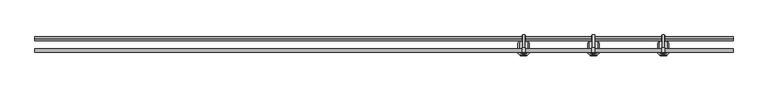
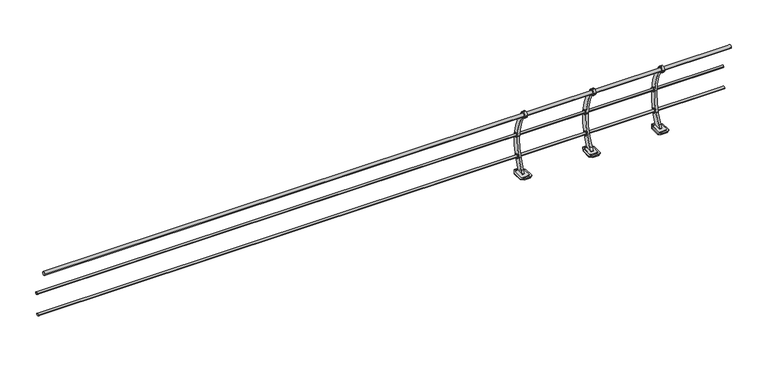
"""IFC4 building model written with IfcOpenShell, lengths in millimetres: railing geometry, Valla Luna-VVL02-1000mm."""

from ifc_helpers import new_model, si_unit, point, frame, frame_2d, origin, place, context, project, spatial, polyline, circle_curve, ellipse_curve, trimmed, segment, composite_curve, outline, extrude, source, transform, mapped, element, save
from ifc_brep_helpers import plane_surface, cylinder_surface, advanced_brep


def railing_a3eb56ae(model_context):
    return source(origin(), model_context, "Body", "SolidModel", [
        extrude(outline(composite_curve([segment(trimmed(circle_curve(frame_2d((-32.5663737, 952.0)), 25.5), [point((-7.0663737, 952.0))], [point((-58.0663737, 952.0))], False, "CARTESIAN"), True, "CONTINUOUS"), segment(trimmed(circle_curve(frame_2d((-32.5663737, 952.0)), 25.5), [point((-58.0663737, 952.0))], [point((-7.0663737, 952.0))], False, "CARTESIAN"), True, "CONTINUOUS")], self_intersect=False)), frame((-10020.1742824, 0.0, 0.0), z_axis=(1.0, 0.0, 0.0), x_axis=(0.0, 1.0, 0.0)), (0.0, 0.0, 1.0), 10000.0),
        extrude(outline(composite_curve([segment(trimmed(circle_curve(frame_2d((151.4336263, 535.5)), 17.0), [point((168.4336263, 535.5))], [point((134.4336263, 535.5))], False, "CARTESIAN"), True, "CONTINUOUS"), segment(trimmed(circle_curve(frame_2d((151.4336263, 535.5)), 17.0), [point((134.4336263, 535.5))], [point((168.4336263, 535.5))], False, "CARTESIAN"), True, "CONTINUOUS")], self_intersect=False)), frame((-10020.1742824, 0.0, 0.0), z_axis=(1.0, 0.0, 0.0), x_axis=(0.0, 1.0, 0.0)), (0.0, 0.0, 1.0), 10000.0),
        extrude(outline(composite_curve([segment(trimmed(circle_curve(frame_2d((124.4336263, 223.0)), 17.0), [point((141.4336263, 223.0))], [point((107.4336263, 223.0))], False, "CARTESIAN"), True, "CONTINUOUS"), segment(trimmed(circle_curve(frame_2d((124.4336263, 223.0)), 17.0), [point((107.4336263, 223.0))], [point((141.4336263, 223.0))], False, "CARTESIAN"), True, "CONTINUOUS")], self_intersect=False)), frame((-10020.1742824, 0.0, 0.0), z_axis=(1.0, 0.0, 0.0), x_axis=(0.0, 1.0, 0.0)), (0.0, 0.0, 1.0), 10000.0),
        advanced_brep(
        [(-962.1742824, -59.8778291, 14.203599), (-962.1742824, 76.8213068, 14.203599), (-962.1742824, 76.8213068, 20.5949777), (-962.1742824, -59.8778291, 20.5949777), (-1078.1742824, -59.8778291, 20.5949777), (-1078.1742824, 76.8213068, 20.5949777), (-1078.1742824, 76.8213068, 14.203599), (-1078.1742824, -59.8778291, 14.203599), (-980.3520143, -75.1307572, 16.3372695), (-1059.9965506, -75.1307572, 16.3372695), (-1059.9965506, -75.1307572, 14.203599), (-980.3520143, -75.1307572, 14.203599), (-1058.4734613, 112.362529, 14.203599), (-981.8751036, 112.362529, 14.203599), (-1058.4734613, 112.362529, 16.3372695), (-981.8751036, 112.362529, 16.3372695), (-1060.8335475, 108.1048208, 20.5949777), (-979.5150174, 108.1048208, 20.5949777), (-1065.0706896, -70.873049, 20.5949777), (-975.2778752, -70.873049, 20.5949777)],
        [
            (0, 1),
            (1, 2),
            (2, 3),
            (3, 0),
            (4, 5),
            (5, 6),
            (6, 7),
            (7, 4),
            (8, 9),
            (9, 10),
            (10, 11),
            (11, 8),
            (0, 11),
            (10, 7),
            (6, 12),
            (12, 13),
            (13, 1),
            (12, 14),
            (14, 15),
            (15, 13),
            (14, 16, ellipse_curve(frame((-1060.8335475, 108.1048208, 16.3372695), z_axis=(0.874619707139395, -0.4848096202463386, 0.0), x_axis=(0.4848096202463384, 0.8746197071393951, 0.0)), 4.868068, 4.2577082)),
            (16, 17),
            (17, 15, ellipse_curve(frame((-979.5150174, 108.1048208, 16.3372695), z_axis=(-0.8746197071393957, -0.4848096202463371, 0.0), x_axis=(0.4848096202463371, -0.8746197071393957, 0.0)), 4.868068, 4.2577082)),
            (2, 17),
            (16, 5),
            (4, 18),
            (18, 19),
            (19, 3),
            (8, 19, ellipse_curve(frame((-975.2778752, -70.873049, 16.3372695), z_axis=(-0.6427876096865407, 0.766044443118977, 0.0), x_axis=(0.7660444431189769, 0.6427876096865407, 0.0)), 6.6238181, 4.2577082)),
            (18, 9, ellipse_curve(frame((-1065.0706896, -70.873049, 16.3372695), z_axis=(0.6427876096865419, 0.7660444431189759, 0.0), x_axis=(0.7660444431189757, -0.6427876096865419, 0.0)), 6.6238181, 4.2577082)),
        ],
        [
            plane_surface(frame((-962.1742824, -75.1307572, 14.203599), z_axis=(1.0, 0.0, 0.0), x_axis=(0.0, 0.0, -1.0))),
            plane_surface(frame((-1078.1742824, -75.1307572, 14.203599), z_axis=(-1.0, 0.0, 0.0), x_axis=(0.0, 0.0, 1.0))),
            plane_surface(frame((-962.1742824, -75.1307572, 16.3372695), z_axis=(0.0, -1.0, 0.0), x_axis=(-1.0, 0.0, 0.0))),
            plane_surface(frame((-962.1742824, -75.1307572, 14.203599), z_axis=(0.0, 0.0, -1.0), x_axis=(-1.0, 0.0, 0.0))),
            plane_surface(frame((-962.1742824, 112.362529, 14.203599), z_axis=(0.0, 1.0, 0.0), x_axis=(-1.0, 0.0, 0.0))),
            cylinder_surface(frame((-1078.1742824, 108.1048208, 16.3372695), z_axis=(1.0, 0.0, 0.0), x_axis=(0.0, 1.0, 0.0)), 4.2577082),
            plane_surface(frame((-962.1742824, 108.1048208, 20.5949777), z_axis=(0.0, 0.0, 1.0), x_axis=(-1.0, 0.0, 0.0))),
            cylinder_surface(frame((-1078.1742824, -70.873049, 16.3372695), z_axis=(1.0, 0.0, 0.0), x_axis=(0.0, 1.0, 0.0)), 4.2577082),
            plane_surface(frame((-1078.1742824, 76.8213068, 26.9863564), z_axis=(-0.874619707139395, 0.4848096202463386, 0.0), x_axis=(0.0, 0.0, -1.0))),
            plane_surface(frame((-981.8751036, 112.362529, 26.9863564), z_axis=(0.8746197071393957, 0.4848096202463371, 0.0), x_axis=(0.0, 0.0, -1.0))),
            plane_surface(frame((-962.1742824, -59.8778291, 26.9863564), z_axis=(0.6427876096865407, -0.766044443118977, 0.0), x_axis=(0.0, 0.0, -1.0))),
            plane_surface(frame((-1059.9965506, -75.1307572, 26.9863564), z_axis=(-0.6427876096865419, -0.7660444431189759, 0.0), x_axis=(0.0, 0.0, -1.0))),
        ],
        [
            (0, [[1, 2, 3, 4]]),
            (1, [[5, 6, 7, 8]]),
            (2, [[9, 10, 11, 12]]),
            (3, [[-1, 13, -11, 14, -7, 15, 16, 17]]),
            (4, [[-16, 18, 19, 20]]),
            (5, [[-19, 21, 22, 23]]),
            (6, [[-3, 24, -22, 25, -5, 26, 27, 28]]),
            (7, [[-9, 29, -27, 30]]),
            (8, [[-6, -25, -21, -18, -15]]),
            (9, [[-2, -17, -20, -23, -24]]),
            (10, [[-4, -28, -29, -12, -13]]),
            (11, [[-8, -14, -10, -30, -26]]),
        ],
    ),
        advanced_brep(
        [(-938.1742824, 73.6162264, 14.203599), (-938.1742824, -73.8212018, 14.203599), (-938.1742824, -73.8212018, 0.0), (-938.1742824, 73.6162264, 0.0), (-1102.1742824, 73.6162264, 0.0), (-1102.1742824, -73.8212018, 0.0), (-1102.1742824, -73.8212018, 14.203599), (-1102.1742824, 73.6162264, 14.203599), (-976.975916, 143.6162264, 0.0), (-1063.3726488, 143.6162264, 0.0), (-1063.3726488, 143.6162264, 9.9410744), (-976.975916, 143.6162264, 9.9410744), (-1065.7354048, 139.3537018, 14.203599), (-974.6131601, 139.3537018, 14.203599), (-1068.4525278, -102.1171136, 14.203599), (-971.896037, -102.1171136, 14.203599), (-1063.3726488, -106.3796382, 9.9410744), (-976.975916, -106.3796382, 9.9410744), (-1063.3726488, -106.3796382, 0.0), (-976.975916, -106.3796382, 0.0)],
        [
            (0, 1),
            (1, 2),
            (2, 3),
            (3, 0),
            (4, 5),
            (5, 6),
            (6, 7),
            (7, 4),
            (8, 9),
            (9, 10),
            (10, 11),
            (11, 8),
            (10, 12, ellipse_curve(frame((-1065.7354048, 139.3537018, 9.9410744), z_axis=(0.874619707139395, -0.4848096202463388, 0.0), x_axis=(0.4848096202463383, 0.8746197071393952, 0.0)), 4.8735749, 4.2625246)),
            (12, 13),
            (13, 11, ellipse_curve(frame((-974.6131601, 139.3537018, 9.9410744), z_axis=(-0.8746197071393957, -0.4848096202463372, 0.0), x_axis=(0.4848096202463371, -0.8746197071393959, 0.0)), 4.8735749, 4.2625246)),
            (0, 13),
            (12, 7),
            (6, 14),
            (14, 15),
            (15, 1),
            (14, 16, ellipse_curve(frame((-1068.4525278, -102.1171136, 9.9410744), z_axis=(0.6427876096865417, 0.766044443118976, 0.0), x_axis=(0.766044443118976, -0.6427876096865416, 0.0)), 6.6313111, 4.2625246)),
            (16, 17),
            (17, 15, ellipse_curve(frame((-971.896037, -102.1171136, 9.9410744), z_axis=(-0.6427876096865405, 0.7660444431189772, 0.0), x_axis=(0.766044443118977, 0.6427876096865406, 0.0)), 6.6313111, 4.2625246)),
            (16, 18),
            (18, 19),
            (19, 17),
            (2, 19),
            (18, 5),
            (4, 9),
            (8, 3),
        ],
        [
            plane_surface(frame((-938.1742824, 143.6162264, 9.9410744), z_axis=(1.0, 0.0, 0.0), x_axis=(0.0, 0.0, 1.0))),
            plane_surface(frame((-1102.1742824, 143.6162264, 9.9410744), z_axis=(-1.0, 0.0, 0.0), x_axis=(0.0, 0.0, -1.0))),
            plane_surface(frame((-938.1742824, 143.6162264, 0.0), z_axis=(0.0, 1.0, 0.0), x_axis=(-1.0, 0.0, 0.0))),
            cylinder_surface(frame((-1102.1742824, 139.3537018, 9.9410744), z_axis=(1.0, 0.0, 0.0), x_axis=(0.0, 1.0, 0.0)), 4.2625246),
            plane_surface(frame((-938.1742824, 139.3537018, 14.203599), z_axis=(0.0, 0.0, 1.0), x_axis=(-1.0, 0.0, 0.0))),
            cylinder_surface(frame((-1102.1742824, -102.1171136, 9.9410744), z_axis=(1.0, 0.0, 0.0), x_axis=(0.0, 1.0, 0.0)), 4.2625246),
            plane_surface(frame((-938.1742824, -106.3796382, 9.9410744), z_axis=(0.0, -1.0, 0.0), x_axis=(-1.0, 0.0, 0.0))),
            plane_surface(frame((-938.1742824, -106.3796382, 0.0), z_axis=(0.0, 0.0, -1.0), x_axis=(-1.0, 0.0, 0.0))),
            plane_surface(frame((-1102.1742824, 73.6162264, 56.1063833), z_axis=(-0.874619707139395, 0.4848096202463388, 0.0), x_axis=(0.0, 0.0, -1.0))),
            plane_surface(frame((-976.975916, 143.6162264, 56.1063833), z_axis=(0.8746197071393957, 0.4848096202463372, 0.0), x_axis=(0.0, 0.0, -1.0))),
            plane_surface(frame((-1063.3726488, -106.3796382, 56.1063833), z_axis=(-0.6427876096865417, -0.766044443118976, 0.0), x_axis=(0.0, 0.0, -1.0))),
            plane_surface(frame((-938.1742824, -73.8212018, 56.1063833), z_axis=(0.6427876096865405, -0.7660444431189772, 0.0), x_axis=(0.0, 0.0, -1.0))),
        ],
        [
            (0, [[1, 2, 3, 4]]),
            (1, [[5, 6, 7, 8]]),
            (2, [[9, 10, 11, 12]]),
            (3, [[-11, 13, 14, 15]]),
            (4, [[-1, 16, -14, 17, -7, 18, 19, 20]]),
            (5, [[-19, 21, 22, 23]]),
            (6, [[-22, 24, 25, 26]]),
            (7, [[-3, 27, -25, 28, -5, 29, -9, 30]]),
            (8, [[-8, -17, -13, -10, -29]]),
            (9, [[-4, -30, -12, -15, -16]]),
            (10, [[-6, -28, -24, -21, -18]]),
            (11, [[-2, -20, -23, -26, -27]]),
        ],
    ),
        extrude(outline(composite_curve([segment(trimmed(circle_curve(frame_2d((-32.5175521, 952.3924915)), 42.6132051), [point((-75.1307572, 952.3924915))], [point((10.0956531, 952.3924915))], False, "CARTESIAN"), True, "CONTINUOUS"), segment(trimmed(circle_curve(frame_2d((-32.5175521, 952.3924915)), 42.6132051), [point((10.0956531, 952.3924915))], [point((-75.1307572, 952.3924915))], False, "CARTESIAN"), True, "CONTINUOUS")], self_intersect=False), holes=[composite_curve([segment(trimmed(circle_curve(frame_2d((-32.5175521, 952.3924915)), 28.4096062), [point((-60.9271582, 952.3924915))], [point((-4.1079459, 952.3924915))], True, "CARTESIAN"), True, "CONTINUOUS"), segment(trimmed(circle_curve(frame_2d((-32.5175521, 952.3924915)), 28.4096062), [point((-4.1079459, 952.3924915))], [point((-60.9271582, 952.3924915))], True, "CARTESIAN"), True, "CONTINUOUS")], self_intersect=False)]), frame((-1041.7542824, 0.0, 0.0), z_axis=(1.0, 0.0, 0.0), x_axis=(0.0, 1.0, 0.0)), (0.0, 0.0, 1.0), 43.16),
        extrude(outline(composite_curve([segment(trimmed(circle_curve(frame_2d((-35.2003219, 907.5222066)), 2.3654817), [point((-35.415134, 909.8779144))], [point((-37.4829394, 908.1428196))], True, "CARTESIAN"), True, "CONTINUOUS"), segment(polyline([(-37.4829394, 908.1428196), (-38.2257606, 905.4107199)]), True, "CONTINUOUS"), segment(trimmed(circle_curve(frame_2d((-40.4091972, 906.4191341)), 2.4050561), [point((-38.2257606, 905.4107199))], [point((-41.0401931, 904.0983285))], False, "CARTESIAN"), True, "CONTINUOUS"), segment(polyline([(-41.0401931, 904.0983285), (-48.8524133, 906.2223662)]), True, "CONTINUOUS"), segment(trimmed(circle_curve(frame_2d((-48.2214175, 908.5431718)), 2.4050561), [point((-48.8524133, 906.2223662))], [point((-50.6148686, 908.7791518))], False, "CARTESIAN"), True, "CONTINUOUS"), segment(polyline([(-50.6148686, 908.7791518), (-49.8720473, 911.5112516)]), True, "CONTINUOUS"), segment(trimmed(circle_curve(frame_2d((-52.1546649, 912.1318646)), 2.3654817), [point((-49.8720473, 911.5112516))], [point((-50.3918957, 913.7092511))], True, "CARTESIAN"), True, "CONTINUOUS"), segment(trimmed(circle_curve(frame_2d((-32.5175521, 952.3924915)), 42.6132051), [point((-50.3918957, 913.7092511))], [point((-35.415134, 909.8779144))], True, "CARTESIAN"), True, "CONTINUOUS")], self_intersect=False)), frame((-1026.3942824, 0.0, 0.0), z_axis=(1.0, 0.0, 0.0), x_axis=(0.0, 1.0, 0.0)), (0.0, 0.0, 1.0), 12.4397),
        extrude(outline(composite_curve([segment(trimmed(circle_curve(frame_2d((151.7824529, 535.4983185)), 33.0237288), [point((118.7587241, 535.4983185))], [point((184.8061818, 535.4983185))], False, "CARTESIAN"), True, "CONTINUOUS"), segment(trimmed(circle_curve(frame_2d((151.7824529, 535.4983185)), 33.0237288), [point((184.8061818, 535.4983185))], [point((118.7587241, 535.4983185))], False, "CARTESIAN"), True, "CONTINUOUS")], self_intersect=False), holes=[composite_curve([segment(trimmed(circle_curve(frame_2d((151.7824529, 535.4983185)), 18.8201299), [point((132.9623231, 535.4983185))], [point((170.6025828, 535.4983185))], True, "CARTESIAN"), True, "CONTINUOUS"), segment(trimmed(circle_curve(frame_2d((151.7824529, 535.4983185)), 18.8201299), [point((170.6025828, 535.4983185))], [point((132.9623231, 535.4983185))], True, "CARTESIAN"), True, "CONTINUOUS")], self_intersect=False)]), frame((-1041.7542824, 0.0, 0.0), z_axis=(1.0, 0.0, 0.0), x_axis=(0.0, 1.0, 0.0)), (0.0, 0.0, 1.0), 43.16),
        extrude(outline(composite_curve([segment(trimmed(circle_curve(frame_2d((124.7936883, 223.0046918)), 33.0237288), [point((91.7699595, 223.0046918))], [point((157.8174172, 223.0046918))], False, "CARTESIAN"), True, "CONTINUOUS"), segment(trimmed(circle_curve(frame_2d((124.7936883, 223.0046918)), 33.0237288), [point((157.8174172, 223.0046918))], [point((91.7699595, 223.0046918))], False, "CARTESIAN"), True, "CONTINUOUS")], self_intersect=False), holes=[composite_curve([segment(trimmed(circle_curve(frame_2d((124.7936883, 223.0046918)), 18.8201299), [point((105.9735585, 223.0046918))], [point((143.6138182, 223.0046918))], True, "CARTESIAN"), True, "CONTINUOUS"), segment(trimmed(circle_curve(frame_2d((124.7936883, 223.0046918)), 18.8201299), [point((143.6138182, 223.0046918))], [point((105.9735585, 223.0046918))], True, "CARTESIAN"), True, "CONTINUOUS")], self_intersect=False)]), frame((-1041.7542824, 0.0, 0.0), z_axis=(1.0, 0.0, 0.0), x_axis=(0.0, 1.0, 0.0)), (0.0, 0.0, 1.0), 43.16),
        extrude(outline(composite_curve([segment(trimmed(circle_curve(frame_2d((-32.5175521, 951.7927114)), 42.6132051), [point((-19.2244118, 911.3059521))], [point((0.6146997, 978.5908296))], False, "CARTESIAN"), True, "CONTINUOUS"), segment(trimmed(circle_curve(frame_2d((-669.8242293, 431.6687279)), 865.2237531), [point((0.6146997, 978.5908296))], [point((94.6092344, 26.3865762))], False, "CARTESIAN"), True, "CONTINUOUS"), segment(trimmed(circle_curve(frame_2d((99.8588247, 25.1220185)), 5.3997504), [point((94.6092344, 26.3865762))], [point((98.1493714, 20.0))], True, "CARTESIAN"), True, "CONTINUOUS"), segment(polyline([(98.1493714, 20.0), (-18.2389933, 20.0)]), True, "CONTINUOUS"), segment(trimmed(circle_curve(frame_2d((-18.9534231, 30.8838265)), 10.9072494), [point((-18.2389933, 20.0))], [point((-9.7913121, 24.9657347))], True, "CARTESIAN"), True, "CONTINUOUS"), segment(trimmed(circle_curve(frame_2d((-548.3550434, 372.840762)), 641.1457926), [point((-9.7913121, 24.9657347))], [point((15.0710067, 66.868519))], True, "CARTESIAN"), True, "CONTINUOUS"), segment(trimmed(circle_curve(frame_2d((-721.6327305, 466.940356)), 838.3256355), [point((15.0710067, 66.868519))], [point((-7.3307436, 905.7598436))], True, "CARTESIAN"), True, "CONTINUOUS"), segment(trimmed(circle_curve(frame_2d((-16.9904255, 900.5706701)), 10.9652622), [point((-7.3307436, 905.7598436))], [point((-19.2244118, 911.3059521))], True, "CARTESIAN"), True, "CONTINUOUS")], self_intersect=False), holes=[composite_curve([segment(trimmed(circle_curve(frame_2d((-32.5175521, 951.7927114)), 28.4096062), [point((-60.9271582, 951.7927114))], [point((-4.1079459, 951.7927114))], True, "CARTESIAN"), True, "CONTINUOUS"), segment(trimmed(circle_curve(frame_2d((-32.5175521, 951.7927114)), 28.4096062), [point((-4.1079459, 951.7927114))], [point((-60.9271582, 951.7927114))], True, "CARTESIAN"), True, "CONTINUOUS")], self_intersect=False), composite_curve([segment(trimmed(circle_curve(frame_2d((151.7824529, 534.8985383)), 18.8201299), [point((132.9623231, 534.8985383))], [point((170.6025828, 534.8985383))], True, "CARTESIAN"), True, "CONTINUOUS"), segment(trimmed(circle_curve(frame_2d((151.7824529, 534.8985383)), 18.8201299), [point((170.6025828, 534.8985383))], [point((132.9623231, 534.8985383))], True, "CARTESIAN"), True, "CONTINUOUS")], self_intersect=False), composite_curve([segment(trimmed(circle_curve(frame_2d((124.7936883, 222.4049116)), 18.8201299), [point((105.9735585, 222.4049116))], [point((143.6138182, 222.4049116))], True, "CARTESIAN"), True, "CONTINUOUS"), segment(trimmed(circle_curve(frame_2d((124.7936883, 222.4049116)), 18.8201299), [point((143.6138182, 222.4049116))], [point((105.9735585, 222.4049116))], True, "CARTESIAN"), True, "CONTINUOUS")], self_intersect=False)]), frame((-1035.1742824, 0.0, 0.0), z_axis=(1.0, 0.0, 0.0), x_axis=(0.0, 1.0, 0.0)), (0.0, 0.0, 1.0), 30.0),
        advanced_brep(
        [(-1962.1742824, -59.8778291, 14.203599), (-1962.1742824, 76.8213068, 14.203599), (-1962.1742824, 76.8213068, 20.5949777), (-1962.1742824, -59.8778291, 20.5949777), (-2078.1742824, -59.8778291, 20.5949777), (-2078.1742824, 76.8213068, 20.5949777), (-2078.1742824, 76.8213068, 14.203599), (-2078.1742824, -59.8778291, 14.203599), (-1980.3520143, -75.1307572, 16.3372695), (-2059.9965506, -75.1307572, 16.3372695), (-2059.9965506, -75.1307572, 14.203599), (-1980.3520143, -75.1307572, 14.203599), (-2058.4734613, 112.362529, 14.203599), (-1981.8751036, 112.362529, 14.203599), (-2058.4734613, 112.362529, 16.3372695), (-1981.8751036, 112.362529, 16.3372695), (-2060.8335475, 108.1048208, 20.5949777), (-1979.5150174, 108.1048208, 20.5949777), (-2065.0706896, -70.873049, 20.5949777), (-1975.2778752, -70.873049, 20.5949777)],
        [
            (0, 1),
            (1, 2),
            (2, 3),
            (3, 0),
            (4, 5),
            (5, 6),
            (6, 7),
            (7, 4),
            (8, 9),
            (9, 10),
            (10, 11),
            (11, 8),
            (0, 11),
            (10, 7),
            (6, 12),
            (12, 13),
            (13, 1),
            (12, 14),
            (14, 15),
            (15, 13),
            (14, 16, ellipse_curve(frame((-2060.8335475, 108.1048208, 16.3372695), z_axis=(0.874619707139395, -0.4848096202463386, 0.0), x_axis=(0.4848096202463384, 0.8746197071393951, 0.0)), 4.868068, 4.2577082)),
            (16, 17),
            (17, 15, ellipse_curve(frame((-1979.5150174, 108.1048208, 16.3372695), z_axis=(-0.8746197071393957, -0.4848096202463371, 0.0), x_axis=(0.4848096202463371, -0.8746197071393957, 0.0)), 4.868068, 4.2577082)),
            (2, 17),
            (16, 5),
            (4, 18),
            (18, 19),
            (19, 3),
            (8, 19, ellipse_curve(frame((-1975.2778752, -70.873049, 16.3372695), z_axis=(-0.6427876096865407, 0.766044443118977, 0.0), x_axis=(0.7660444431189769, 0.6427876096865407, 0.0)), 6.6238181, 4.2577082)),
            (18, 9, ellipse_curve(frame((-2065.0706896, -70.873049, 16.3372695), z_axis=(0.6427876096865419, 0.7660444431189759, 0.0), x_axis=(0.7660444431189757, -0.6427876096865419, 0.0)), 6.6238181, 4.2577082)),
        ],
        [
            plane_surface(frame((-1962.1742824, -75.1307572, 14.203599), z_axis=(1.0, 0.0, 0.0), x_axis=(0.0, 0.0, -1.0))),
            plane_surface(frame((-2078.1742824, -75.1307572, 14.203599), z_axis=(-1.0, 0.0, 0.0), x_axis=(0.0, 0.0, 1.0))),
            plane_surface(frame((-1962.1742824, -75.1307572, 16.3372695), z_axis=(0.0, -1.0, 0.0), x_axis=(-1.0, 0.0, 0.0))),
            plane_surface(frame((-1962.1742824, -75.1307572, 14.203599), z_axis=(0.0, 0.0, -1.0), x_axis=(-1.0, 0.0, 0.0))),
            plane_surface(frame((-1962.1742824, 112.362529, 14.203599), z_axis=(0.0, 1.0, 0.0), x_axis=(-1.0, 0.0, 0.0))),
            cylinder_surface(frame((-2078.1742824, 108.1048208, 16.3372695), z_axis=(1.0, 0.0, 0.0), x_axis=(0.0, 1.0, 0.0)), 4.2577082),
            plane_surface(frame((-1962.1742824, 108.1048208, 20.5949777), z_axis=(0.0, 0.0, 1.0), x_axis=(-1.0, 0.0, 0.0))),
            cylinder_surface(frame((-2078.1742824, -70.873049, 16.3372695), z_axis=(1.0, 0.0, 0.0), x_axis=(0.0, 1.0, 0.0)), 4.2577082),
            plane_surface(frame((-2078.1742824, 76.8213068, 26.9863564), z_axis=(-0.874619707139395, 0.4848096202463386, 0.0), x_axis=(0.0, 0.0, -1.0))),
            plane_surface(frame((-1981.8751036, 112.362529, 26.9863564), z_axis=(0.8746197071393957, 0.4848096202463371, 0.0), x_axis=(0.0, 0.0, -1.0))),
            plane_surface(frame((-1962.1742824, -59.8778291, 26.9863564), z_axis=(0.6427876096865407, -0.766044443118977, 0.0), x_axis=(0.0, 0.0, -1.0))),
            plane_surface(frame((-2059.9965506, -75.1307572, 26.9863564), z_axis=(-0.6427876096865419, -0.7660444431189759, 0.0), x_axis=(0.0, 0.0, -1.0))),
        ],
        [
            (0, [[1, 2, 3, 4]]),
            (1, [[5, 6, 7, 8]]),
            (2, [[9, 10, 11, 12]]),
            (3, [[-1, 13, -11, 14, -7, 15, 16, 17]]),
            (4, [[-16, 18, 19, 20]]),
            (5, [[-19, 21, 22, 23]]),
            (6, [[-3, 24, -22, 25, -5, 26, 27, 28]]),
            (7, [[-9, 29, -27, 30]]),
            (8, [[-6, -25, -21, -18, -15]]),
            (9, [[-2, -17, -20, -23, -24]]),
            (10, [[-4, -28, -29, -12, -13]]),
            (11, [[-8, -14, -10, -30, -26]]),
        ],
    ),
        advanced_brep(
        [(-1938.1742824, 73.6162264, 14.203599), (-1938.1742824, -73.8212018, 14.203599), (-1938.1742824, -73.8212018, 0.0), (-1938.1742824, 73.6162264, 0.0), (-2102.1742824, 73.6162264, 0.0), (-2102.1742824, -73.8212018, 0.0), (-2102.1742824, -73.8212018, 14.203599), (-2102.1742824, 73.6162264, 14.203599), (-1976.975916, 143.6162264, 0.0), (-2063.3726488, 143.6162264, 0.0), (-2063.3726488, 143.6162264, 9.9410744), (-1976.975916, 143.6162264, 9.9410744), (-2065.7354048, 139.3537018, 14.203599), (-1974.6131601, 139.3537018, 14.203599), (-2068.4525278, -102.1171136, 14.203599), (-1971.896037, -102.1171136, 14.203599), (-2063.3726488, -106.3796382, 9.9410744), (-1976.975916, -106.3796382, 9.9410744), (-2063.3726488, -106.3796382, 0.0), (-1976.975916, -106.3796382, 0.0)],
        [
            (0, 1),
            (1, 2),
            (2, 3),
            (3, 0),
            (4, 5),
            (5, 6),
            (6, 7),
            (7, 4),
            (8, 9),
            (9, 10),
            (10, 11),
            (11, 8),
            (10, 12, ellipse_curve(frame((-2065.7354048, 139.3537018, 9.9410744), z_axis=(0.874619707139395, -0.4848096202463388, 0.0), x_axis=(0.4848096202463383, 0.8746197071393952, 0.0)), 4.8735749, 4.2625246)),
            (12, 13),
            (13, 11, ellipse_curve(frame((-1974.6131601, 139.3537018, 9.9410744), z_axis=(-0.8746197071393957, -0.4848096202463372, 0.0), x_axis=(0.4848096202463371, -0.8746197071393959, 0.0)), 4.8735749, 4.2625246)),
            (0, 13),
            (12, 7),
            (6, 14),
            (14, 15),
            (15, 1),
            (14, 16, ellipse_curve(frame((-2068.4525278, -102.1171136, 9.9410744), z_axis=(0.6427876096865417, 0.766044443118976, 0.0), x_axis=(0.766044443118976, -0.6427876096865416, 0.0)), 6.6313111, 4.2625246)),
            (16, 17),
            (17, 15, ellipse_curve(frame((-1971.896037, -102.1171136, 9.9410744), z_axis=(-0.6427876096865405, 0.7660444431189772, 0.0), x_axis=(0.766044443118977, 0.6427876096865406, 0.0)), 6.6313111, 4.2625246)),
            (16, 18),
            (18, 19),
            (19, 17),
            (2, 19),
            (18, 5),
            (4, 9),
            (8, 3),
        ],
        [
            plane_surface(frame((-1938.1742824, 143.6162264, 9.9410744), z_axis=(1.0, 0.0, 0.0), x_axis=(0.0, 0.0, 1.0))),
            plane_surface(frame((-2102.1742824, 143.6162264, 9.9410744), z_axis=(-1.0, 0.0, 0.0), x_axis=(0.0, 0.0, -1.0))),
            plane_surface(frame((-1938.1742824, 143.6162264, 0.0), z_axis=(0.0, 1.0, 0.0), x_axis=(-1.0, 0.0, 0.0))),
            cylinder_surface(frame((-2102.1742824, 139.3537018, 9.9410744), z_axis=(1.0, 0.0, 0.0), x_axis=(0.0, 1.0, 0.0)), 4.2625246),
            plane_surface(frame((-1938.1742824, 139.3537018, 14.203599), z_axis=(0.0, 0.0, 1.0), x_axis=(-1.0, 0.0, 0.0))),
            cylinder_surface(frame((-2102.1742824, -102.1171136, 9.9410744), z_axis=(1.0, 0.0, 0.0), x_axis=(0.0, 1.0, 0.0)), 4.2625246),
            plane_surface(frame((-1938.1742824, -106.3796382, 9.9410744), z_axis=(0.0, -1.0, 0.0), x_axis=(-1.0, 0.0, 0.0))),
            plane_surface(frame((-1938.1742824, -106.3796382, 0.0), z_axis=(0.0, 0.0, -1.0), x_axis=(-1.0, 0.0, 0.0))),
            plane_surface(frame((-2102.1742824, 73.6162264, 56.1063833), z_axis=(-0.874619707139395, 0.4848096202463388, 0.0), x_axis=(0.0, 0.0, -1.0))),
            plane_surface(frame((-1976.975916, 143.6162264, 56.1063833), z_axis=(0.8746197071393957, 0.4848096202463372, 0.0), x_axis=(0.0, 0.0, -1.0))),
            plane_surface(frame((-2063.3726488, -106.3796382, 56.1063833), z_axis=(-0.6427876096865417, -0.766044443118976, 0.0), x_axis=(0.0, 0.0, -1.0))),
            plane_surface(frame((-1938.1742824, -73.8212018, 56.1063833), z_axis=(0.6427876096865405, -0.7660444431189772, 0.0), x_axis=(0.0, 0.0, -1.0))),
        ],
        [
            (0, [[1, 2, 3, 4]]),
            (1, [[5, 6, 7, 8]]),
            (2, [[9, 10, 11, 12]]),
            (3, [[-11, 13, 14, 15]]),
            (4, [[-1, 16, -14, 17, -7, 18, 19, 20]]),
            (5, [[-19, 21, 22, 23]]),
            (6, [[-22, 24, 25, 26]]),
            (7, [[-3, 27, -25, 28, -5, 29, -9, 30]]),
            (8, [[-8, -17, -13, -10, -29]]),
            (9, [[-4, -30, -12, -15, -16]]),
            (10, [[-6, -28, -24, -21, -18]]),
            (11, [[-2, -20, -23, -26, -27]]),
        ],
    ),
        extrude(outline(composite_curve([segment(trimmed(circle_curve(frame_2d((-32.5175521, 952.3924915)), 42.6132051), [point((-75.1307572, 952.3924915))], [point((10.0956531, 952.3924915))], False, "CARTESIAN"), True, "CONTINUOUS"), segment(trimmed(circle_curve(frame_2d((-32.5175521, 952.3924915)), 42.6132051), [point((10.0956531, 952.3924915))], [point((-75.1307572, 952.3924915))], False, "CARTESIAN"), True, "CONTINUOUS")], self_intersect=False), holes=[composite_curve([segment(trimmed(circle_curve(frame_2d((-32.5175521, 952.3924915)), 28.4096062), [point((-60.9271582, 952.3924915))], [point((-4.1079459, 952.3924915))], True, "CARTESIAN"), True, "CONTINUOUS"), segment(trimmed(circle_curve(frame_2d((-32.5175521, 952.3924915)), 28.4096062), [point((-4.1079459, 952.3924915))], [point((-60.9271582, 952.3924915))], True, "CARTESIAN"), True, "CONTINUOUS")], self_intersect=False)]), frame((-2041.7542824, 0.0, 0.0), z_axis=(1.0, 0.0, 0.0), x_axis=(0.0, 1.0, 0.0)), (0.0, 0.0, 1.0), 43.16),
        extrude(outline(composite_curve([segment(trimmed(circle_curve(frame_2d((-35.2003219, 907.5222066)), 2.3654817), [point((-35.415134, 909.8779144))], [point((-37.4829394, 908.1428196))], True, "CARTESIAN"), True, "CONTINUOUS"), segment(polyline([(-37.4829394, 908.1428196), (-38.2257606, 905.4107199)]), True, "CONTINUOUS"), segment(trimmed(circle_curve(frame_2d((-40.4091972, 906.4191341)), 2.4050561), [point((-38.2257606, 905.4107199))], [point((-41.0401931, 904.0983285))], False, "CARTESIAN"), True, "CONTINUOUS"), segment(polyline([(-41.0401931, 904.0983285), (-48.8524133, 906.2223662)]), True, "CONTINUOUS"), segment(trimmed(circle_curve(frame_2d((-48.2214175, 908.5431718)), 2.4050561), [point((-48.8524133, 906.2223662))], [point((-50.6148686, 908.7791518))], False, "CARTESIAN"), True, "CONTINUOUS"), segment(polyline([(-50.6148686, 908.7791518), (-49.8720473, 911.5112516)]), True, "CONTINUOUS"), segment(trimmed(circle_curve(frame_2d((-52.1546649, 912.1318646)), 2.3654817), [point((-49.8720473, 911.5112516))], [point((-50.3918957, 913.7092511))], True, "CARTESIAN"), True, "CONTINUOUS"), segment(trimmed(circle_curve(frame_2d((-32.5175521, 952.3924915)), 42.6132051), [point((-50.3918957, 913.7092511))], [point((-35.415134, 909.8779144))], True, "CARTESIAN"), True, "CONTINUOUS")], self_intersect=False)), frame((-2026.3942824, 0.0, 0.0), z_axis=(1.0, 0.0, 0.0), x_axis=(0.0, 1.0, 0.0)), (0.0, 0.0, 1.0), 12.4397),
        extrude(outline(composite_curve([segment(trimmed(circle_curve(frame_2d((151.7824529, 535.4983185)), 33.0237288), [point((118.7587241, 535.4983185))], [point((184.8061818, 535.4983185))], False, "CARTESIAN"), True, "CONTINUOUS"), segment(trimmed(circle_curve(frame_2d((151.7824529, 535.4983185)), 33.0237288), [point((184.8061818, 535.4983185))], [point((118.7587241, 535.4983185))], False, "CARTESIAN"), True, "CONTINUOUS")], self_intersect=False), holes=[composite_curve([segment(trimmed(circle_curve(frame_2d((151.7824529, 535.4983185)), 18.8201299), [point((132.9623231, 535.4983185))], [point((170.6025828, 535.4983185))], True, "CARTESIAN"), True, "CONTINUOUS"), segment(trimmed(circle_curve(frame_2d((151.7824529, 535.4983185)), 18.8201299), [point((170.6025828, 535.4983185))], [point((132.9623231, 535.4983185))], True, "CARTESIAN"), True, "CONTINUOUS")], self_intersect=False)]), frame((-2041.7542824, 0.0, 0.0), z_axis=(1.0, 0.0, 0.0), x_axis=(0.0, 1.0, 0.0)), (0.0, 0.0, 1.0), 43.16),
        extrude(outline(composite_curve([segment(trimmed(circle_curve(frame_2d((124.7936883, 223.0046918)), 33.0237288), [point((91.7699595, 223.0046918))], [point((157.8174172, 223.0046918))], False, "CARTESIAN"), True, "CONTINUOUS"), segment(trimmed(circle_curve(frame_2d((124.7936883, 223.0046918)), 33.0237288), [point((157.8174172, 223.0046918))], [point((91.7699595, 223.0046918))], False, "CARTESIAN"), True, "CONTINUOUS")], self_intersect=False), holes=[composite_curve([segment(trimmed(circle_curve(frame_2d((124.7936883, 223.0046918)), 18.8201299), [point((105.9735585, 223.0046918))], [point((143.6138182, 223.0046918))], True, "CARTESIAN"), True, "CONTINUOUS"), segment(trimmed(circle_curve(frame_2d((124.7936883, 223.0046918)), 18.8201299), [point((143.6138182, 223.0046918))], [point((105.9735585, 223.0046918))], True, "CARTESIAN"), True, "CONTINUOUS")], self_intersect=False)]), frame((-2041.7542824, 0.0, 0.0), z_axis=(1.0, 0.0, 0.0), x_axis=(0.0, 1.0, 0.0)), (0.0, 0.0, 1.0), 43.16),
        extrude(outline(composite_curve([segment(trimmed(circle_curve(frame_2d((-32.5175521, 951.7927114)), 42.6132051), [point((-19.2244118, 911.3059521))], [point((0.6146997, 978.5908296))], False, "CARTESIAN"), True, "CONTINUOUS"), segment(trimmed(circle_curve(frame_2d((-669.8242293, 431.6687279)), 865.2237531), [point((0.6146997, 978.5908296))], [point((94.6092344, 26.3865762))], False, "CARTESIAN"), True, "CONTINUOUS"), segment(trimmed(circle_curve(frame_2d((99.8588247, 25.1220185)), 5.3997504), [point((94.6092344, 26.3865762))], [point((98.1493714, 20.0))], True, "CARTESIAN"), True, "CONTINUOUS"), segment(polyline([(98.1493714, 20.0), (-18.2389933, 20.0)]), True, "CONTINUOUS"), segment(trimmed(circle_curve(frame_2d((-18.9534231, 30.8838265)), 10.9072494), [point((-18.2389933, 20.0))], [point((-9.7913121, 24.9657347))], True, "CARTESIAN"), True, "CONTINUOUS"), segment(trimmed(circle_curve(frame_2d((-548.3550434, 372.840762)), 641.1457926), [point((-9.7913121, 24.9657347))], [point((15.0710067, 66.868519))], True, "CARTESIAN"), True, "CONTINUOUS"), segment(trimmed(circle_curve(frame_2d((-721.6327305, 466.940356)), 838.3256355), [point((15.0710067, 66.868519))], [point((-7.3307436, 905.7598436))], True, "CARTESIAN"), True, "CONTINUOUS"), segment(trimmed(circle_curve(frame_2d((-16.9904255, 900.5706701)), 10.9652622), [point((-7.3307436, 905.7598436))], [point((-19.2244118, 911.3059521))], True, "CARTESIAN"), True, "CONTINUOUS")], self_intersect=False), holes=[composite_curve([segment(trimmed(circle_curve(frame_2d((-32.5175521, 951.7927114)), 28.4096062), [point((-60.9271582, 951.7927114))], [point((-4.1079459, 951.7927114))], True, "CARTESIAN"), True, "CONTINUOUS"), segment(trimmed(circle_curve(frame_2d((-32.5175521, 951.7927114)), 28.4096062), [point((-4.1079459, 951.7927114))], [point((-60.9271582, 951.7927114))], True, "CARTESIAN"), True, "CONTINUOUS")], self_intersect=False), composite_curve([segment(trimmed(circle_curve(frame_2d((151.7824529, 534.8985383)), 18.8201299), [point((132.9623231, 534.8985383))], [point((170.6025828, 534.8985383))], True, "CARTESIAN"), True, "CONTINUOUS"), segment(trimmed(circle_curve(frame_2d((151.7824529, 534.8985383)), 18.8201299), [point((170.6025828, 534.8985383))], [point((132.9623231, 534.8985383))], True, "CARTESIAN"), True, "CONTINUOUS")], self_intersect=False), composite_curve([segment(trimmed(circle_curve(frame_2d((124.7936883, 222.4049116)), 18.8201299), [point((105.9735585, 222.4049116))], [point((143.6138182, 222.4049116))], True, "CARTESIAN"), True, "CONTINUOUS"), segment(trimmed(circle_curve(frame_2d((124.7936883, 222.4049116)), 18.8201299), [point((143.6138182, 222.4049116))], [point((105.9735585, 222.4049116))], True, "CARTESIAN"), True, "CONTINUOUS")], self_intersect=False)]), frame((-2035.1742824, 0.0, 0.0), z_axis=(1.0, 0.0, 0.0), x_axis=(0.0, 1.0, 0.0)), (0.0, 0.0, 1.0), 30.0),
        advanced_brep(
        [(-2962.1742824, -59.8778291, 14.203599), (-2962.1742824, 76.8213068, 14.203599), (-2962.1742824, 76.8213068, 20.5949777), (-2962.1742824, -59.8778291, 20.5949777), (-3078.1742824, -59.8778291, 20.5949777), (-3078.1742824, 76.8213068, 20.5949777), (-3078.1742824, 76.8213068, 14.203599), (-3078.1742824, -59.8778291, 14.203599), (-2980.3520143, -75.1307572, 16.3372695), (-3059.9965506, -75.1307572, 16.3372695), (-3059.9965506, -75.1307572, 14.203599), (-2980.3520143, -75.1307572, 14.203599), (-3058.4734613, 112.362529, 14.203599), (-2981.8751036, 112.362529, 14.203599), (-3058.4734613, 112.362529, 16.3372695), (-2981.8751036, 112.362529, 16.3372695), (-3060.8335475, 108.1048208, 20.5949777), (-2979.5150174, 108.1048208, 20.5949777), (-3065.0706896, -70.873049, 20.5949777), (-2975.2778752, -70.873049, 20.5949777)],
        [
            (0, 1),
            (1, 2),
            (2, 3),
            (3, 0),
            (4, 5),
            (5, 6),
            (6, 7),
            (7, 4),
            (8, 9),
            (9, 10),
            (10, 11),
            (11, 8),
            (0, 11),
            (10, 7),
            (6, 12),
            (12, 13),
            (13, 1),
            (12, 14),
            (14, 15),
            (15, 13),
            (14, 16, ellipse_curve(frame((-3060.8335475, 108.1048208, 16.3372695), z_axis=(0.874619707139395, -0.4848096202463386, 0.0), x_axis=(0.4848096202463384, 0.8746197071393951, 0.0)), 4.868068, 4.2577082)),
            (16, 17),
            (17, 15, ellipse_curve(frame((-2979.5150174, 108.1048208, 16.3372695), z_axis=(-0.8746197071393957, -0.4848096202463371, 0.0), x_axis=(0.4848096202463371, -0.8746197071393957, 0.0)), 4.868068, 4.2577082)),
            (2, 17),
            (16, 5),
            (4, 18),
            (18, 19),
            (19, 3),
            (8, 19, ellipse_curve(frame((-2975.2778752, -70.873049, 16.3372695), z_axis=(-0.6427876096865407, 0.766044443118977, 0.0), x_axis=(0.7660444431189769, 0.6427876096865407, 0.0)), 6.6238181, 4.2577082)),
            (18, 9, ellipse_curve(frame((-3065.0706896, -70.873049, 16.3372695), z_axis=(0.6427876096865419, 0.7660444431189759, 0.0), x_axis=(0.7660444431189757, -0.6427876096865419, 0.0)), 6.6238181, 4.2577082)),
        ],
        [
            plane_surface(frame((-2962.1742824, -75.1307572, 14.203599), z_axis=(1.0, 0.0, 0.0), x_axis=(0.0, 0.0, -1.0))),
            plane_surface(frame((-3078.1742824, -75.1307572, 14.203599), z_axis=(-1.0, 0.0, 0.0), x_axis=(0.0, 0.0, 1.0))),
            plane_surface(frame((-2962.1742824, -75.1307572, 16.3372695), z_axis=(0.0, -1.0, 0.0), x_axis=(-1.0, 0.0, 0.0))),
            plane_surface(frame((-2962.1742824, -75.1307572, 14.203599), z_axis=(0.0, 0.0, -1.0), x_axis=(-1.0, 0.0, 0.0))),
            plane_surface(frame((-2962.1742824, 112.362529, 14.203599), z_axis=(0.0, 1.0, 0.0), x_axis=(-1.0, 0.0, 0.0))),
            cylinder_surface(frame((-3078.1742824, 108.1048208, 16.3372695), z_axis=(1.0, 0.0, 0.0), x_axis=(0.0, 1.0, 0.0)), 4.2577082),
            plane_surface(frame((-2962.1742824, 108.1048208, 20.5949777), z_axis=(0.0, 0.0, 1.0), x_axis=(-1.0, 0.0, 0.0))),
            cylinder_surface(frame((-3078.1742824, -70.873049, 16.3372695), z_axis=(1.0, 0.0, 0.0), x_axis=(0.0, 1.0, 0.0)), 4.2577082),
            plane_surface(frame((-3078.1742824, 76.8213068, 26.9863564), z_axis=(-0.874619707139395, 0.4848096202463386, 0.0), x_axis=(0.0, 0.0, -1.0))),
            plane_surface(frame((-2981.8751036, 112.362529, 26.9863564), z_axis=(0.8746197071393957, 0.4848096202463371, 0.0), x_axis=(0.0, 0.0, -1.0))),
            plane_surface(frame((-2962.1742824, -59.8778291, 26.9863564), z_axis=(0.6427876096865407, -0.766044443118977, 0.0), x_axis=(0.0, 0.0, -1.0))),
            plane_surface(frame((-3059.9965506, -75.1307572, 26.9863564), z_axis=(-0.6427876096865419, -0.7660444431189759, 0.0), x_axis=(0.0, 0.0, -1.0))),
        ],
        [
            (0, [[1, 2, 3, 4]]),
            (1, [[5, 6, 7, 8]]),
            (2, [[9, 10, 11, 12]]),
            (3, [[-1, 13, -11, 14, -7, 15, 16, 17]]),
            (4, [[-16, 18, 19, 20]]),
            (5, [[-19, 21, 22, 23]]),
            (6, [[-3, 24, -22, 25, -5, 26, 27, 28]]),
            (7, [[-9, 29, -27, 30]]),
            (8, [[-6, -25, -21, -18, -15]]),
            (9, [[-2, -17, -20, -23, -24]]),
            (10, [[-4, -28, -29, -12, -13]]),
            (11, [[-8, -14, -10, -30, -26]]),
        ],
    ),
        advanced_brep(
        [(-2938.1742824, 73.6162264, 14.203599), (-2938.1742824, -73.8212018, 14.203599), (-2938.1742824, -73.8212018, 0.0), (-2938.1742824, 73.6162264, 0.0), (-3102.1742824, 73.6162264, 0.0), (-3102.1742824, -73.8212018, 0.0), (-3102.1742824, -73.8212018, 14.203599), (-3102.1742824, 73.6162264, 14.203599), (-2976.975916, 143.6162264, 0.0), (-3063.3726488, 143.6162264, 0.0), (-3063.3726488, 143.6162264, 9.9410744), (-2976.975916, 143.6162264, 9.9410744), (-3065.7354048, 139.3537018, 14.203599), (-2974.6131601, 139.3537018, 14.203599), (-3068.4525278, -102.1171136, 14.203599), (-2971.896037, -102.1171136, 14.203599), (-3063.3726488, -106.3796382, 9.9410744), (-2976.975916, -106.3796382, 9.9410744), (-3063.3726488, -106.3796382, 0.0), (-2976.975916, -106.3796382, 0.0)],
        [
            (0, 1),
            (1, 2),
            (2, 3),
            (3, 0),
            (4, 5),
            (5, 6),
            (6, 7),
            (7, 4),
            (8, 9),
            (9, 10),
            (10, 11),
            (11, 8),
            (10, 12, ellipse_curve(frame((-3065.7354048, 139.3537018, 9.9410744), z_axis=(0.874619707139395, -0.4848096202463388, 0.0), x_axis=(0.4848096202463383, 0.8746197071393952, 0.0)), 4.8735749, 4.2625246)),
            (12, 13),
            (13, 11, ellipse_curve(frame((-2974.6131601, 139.3537018, 9.9410744), z_axis=(-0.8746197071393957, -0.4848096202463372, 0.0), x_axis=(0.4848096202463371, -0.8746197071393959, 0.0)), 4.8735749, 4.2625246)),
            (0, 13),
            (12, 7),
            (6, 14),
            (14, 15),
            (15, 1),
            (14, 16, ellipse_curve(frame((-3068.4525278, -102.1171136, 9.9410744), z_axis=(0.6427876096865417, 0.766044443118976, 0.0), x_axis=(0.766044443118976, -0.6427876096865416, 0.0)), 6.6313111, 4.2625246)),
            (16, 17),
            (17, 15, ellipse_curve(frame((-2971.896037, -102.1171136, 9.9410744), z_axis=(-0.6427876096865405, 0.7660444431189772, 0.0), x_axis=(0.766044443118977, 0.6427876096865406, 0.0)), 6.6313111, 4.2625246)),
            (16, 18),
            (18, 19),
            (19, 17),
            (2, 19),
            (18, 5),
            (4, 9),
            (8, 3),
        ],
        [
            plane_surface(frame((-2938.1742824, 143.6162264, 9.9410744), z_axis=(1.0, 0.0, 0.0), x_axis=(0.0, 0.0, 1.0))),
            plane_surface(frame((-3102.1742824, 143.6162264, 9.9410744), z_axis=(-1.0, 0.0, 0.0), x_axis=(0.0, 0.0, -1.0))),
            plane_surface(frame((-2938.1742824, 143.6162264, 0.0), z_axis=(0.0, 1.0, 0.0), x_axis=(-1.0, 0.0, 0.0))),
            cylinder_surface(frame((-3102.1742824, 139.3537018, 9.9410744), z_axis=(1.0, 0.0, 0.0), x_axis=(0.0, 1.0, 0.0)), 4.2625246),
            plane_surface(frame((-2938.1742824, 139.3537018, 14.203599), z_axis=(0.0, 0.0, 1.0), x_axis=(-1.0, 0.0, 0.0))),
            cylinder_surface(frame((-3102.1742824, -102.1171136, 9.9410744), z_axis=(1.0, 0.0, 0.0), x_axis=(0.0, 1.0, 0.0)), 4.2625246),
            plane_surface(frame((-2938.1742824, -106.3796382, 9.9410744), z_axis=(0.0, -1.0, 0.0), x_axis=(-1.0, 0.0, 0.0))),
            plane_surface(frame((-2938.1742824, -106.3796382, 0.0), z_axis=(0.0, 0.0, -1.0), x_axis=(-1.0, 0.0, 0.0))),
            plane_surface(frame((-3102.1742824, 73.6162264, 56.1063833), z_axis=(-0.874619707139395, 0.4848096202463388, 0.0), x_axis=(0.0, 0.0, -1.0))),
            plane_surface(frame((-2976.975916, 143.6162264, 56.1063833), z_axis=(0.8746197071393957, 0.4848096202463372, 0.0), x_axis=(0.0, 0.0, -1.0))),
            plane_surface(frame((-3063.3726488, -106.3796382, 56.1063833), z_axis=(-0.6427876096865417, -0.766044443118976, 0.0), x_axis=(0.0, 0.0, -1.0))),
            plane_surface(frame((-2938.1742824, -73.8212018, 56.1063833), z_axis=(0.6427876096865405, -0.7660444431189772, 0.0), x_axis=(0.0, 0.0, -1.0))),
        ],
        [
            (0, [[1, 2, 3, 4]]),
            (1, [[5, 6, 7, 8]]),
            (2, [[9, 10, 11, 12]]),
            (3, [[-11, 13, 14, 15]]),
            (4, [[-1, 16, -14, 17, -7, 18, 19, 20]]),
            (5, [[-19, 21, 22, 23]]),
            (6, [[-22, 24, 25, 26]]),
            (7, [[-3, 27, -25, 28, -5, 29, -9, 30]]),
            (8, [[-8, -17, -13, -10, -29]]),
            (9, [[-4, -30, -12, -15, -16]]),
            (10, [[-6, -28, -24, -21, -18]]),
            (11, [[-2, -20, -23, -26, -27]]),
        ],
    ),
        extrude(outline(composite_curve([segment(trimmed(circle_curve(frame_2d((-32.5175521, 952.3924915)), 42.6132051), [point((-75.1307572, 952.3924915))], [point((10.0956531, 952.3924915))], False, "CARTESIAN"), True, "CONTINUOUS"), segment(trimmed(circle_curve(frame_2d((-32.5175521, 952.3924915)), 42.6132051), [point((10.0956531, 952.3924915))], [point((-75.1307572, 952.3924915))], False, "CARTESIAN"), True, "CONTINUOUS")], self_intersect=False), holes=[composite_curve([segment(trimmed(circle_curve(frame_2d((-32.5175521, 952.3924915)), 28.4096062), [point((-60.9271582, 952.3924915))], [point((-4.1079459, 952.3924915))], True, "CARTESIAN"), True, "CONTINUOUS"), segment(trimmed(circle_curve(frame_2d((-32.5175521, 952.3924915)), 28.4096062), [point((-4.1079459, 952.3924915))], [point((-60.9271582, 952.3924915))], True, "CARTESIAN"), True, "CONTINUOUS")], self_intersect=False)]), frame((-3041.7542824, 0.0, 0.0), z_axis=(1.0, 0.0, 0.0), x_axis=(0.0, 1.0, 0.0)), (0.0, 0.0, 1.0), 43.16),
        extrude(outline(composite_curve([segment(trimmed(circle_curve(frame_2d((-35.2003219, 907.5222066)), 2.3654817), [point((-35.415134, 909.8779144))], [point((-37.4829394, 908.1428196))], True, "CARTESIAN"), True, "CONTINUOUS"), segment(polyline([(-37.4829394, 908.1428196), (-38.2257606, 905.4107199)]), True, "CONTINUOUS"), segment(trimmed(circle_curve(frame_2d((-40.4091972, 906.4191341)), 2.4050561), [point((-38.2257606, 905.4107199))], [point((-41.0401931, 904.0983285))], False, "CARTESIAN"), True, "CONTINUOUS"), segment(polyline([(-41.0401931, 904.0983285), (-48.8524133, 906.2223662)]), True, "CONTINUOUS"), segment(trimmed(circle_curve(frame_2d((-48.2214175, 908.5431718)), 2.4050561), [point((-48.8524133, 906.2223662))], [point((-50.6148686, 908.7791518))], False, "CARTESIAN"), True, "CONTINUOUS"), segment(polyline([(-50.6148686, 908.7791518), (-49.8720473, 911.5112516)]), True, "CONTINUOUS"), segment(trimmed(circle_curve(frame_2d((-52.1546649, 912.1318646)), 2.3654817), [point((-49.8720473, 911.5112516))], [point((-50.3918957, 913.7092511))], True, "CARTESIAN"), True, "CONTINUOUS"), segment(trimmed(circle_curve(frame_2d((-32.5175521, 952.3924915)), 42.6132051), [point((-50.3918957, 913.7092511))], [point((-35.415134, 909.8779144))], True, "CARTESIAN"), True, "CONTINUOUS")], self_intersect=False)), frame((-3026.3942824, 0.0, 0.0), z_axis=(1.0, 0.0, 0.0), x_axis=(0.0, 1.0, 0.0)), (0.0, 0.0, 1.0), 12.4397),
        extrude(outline(composite_curve([segment(trimmed(circle_curve(frame_2d((151.7824529, 535.4983185)), 33.0237288), [point((118.7587241, 535.4983185))], [point((184.8061818, 535.4983185))], False, "CARTESIAN"), True, "CONTINUOUS"), segment(trimmed(circle_curve(frame_2d((151.7824529, 535.4983185)), 33.0237288), [point((184.8061818, 535.4983185))], [point((118.7587241, 535.4983185))], False, "CARTESIAN"), True, "CONTINUOUS")], self_intersect=False), holes=[composite_curve([segment(trimmed(circle_curve(frame_2d((151.7824529, 535.4983185)), 18.8201299), [point((132.9623231, 535.4983185))], [point((170.6025828, 535.4983185))], True, "CARTESIAN"), True, "CONTINUOUS"), segment(trimmed(circle_curve(frame_2d((151.7824529, 535.4983185)), 18.8201299), [point((170.6025828, 535.4983185))], [point((132.9623231, 535.4983185))], True, "CARTESIAN"), True, "CONTINUOUS")], self_intersect=False)]), frame((-3041.7542824, 0.0, 0.0), z_axis=(1.0, 0.0, 0.0), x_axis=(0.0, 1.0, 0.0)), (0.0, 0.0, 1.0), 43.16),
        extrude(outline(composite_curve([segment(trimmed(circle_curve(frame_2d((124.7936883, 223.0046918)), 33.0237288), [point((91.7699595, 223.0046918))], [point((157.8174172, 223.0046918))], False, "CARTESIAN"), True, "CONTINUOUS"), segment(trimmed(circle_curve(frame_2d((124.7936883, 223.0046918)), 33.0237288), [point((157.8174172, 223.0046918))], [point((91.7699595, 223.0046918))], False, "CARTESIAN"), True, "CONTINUOUS")], self_intersect=False), holes=[composite_curve([segment(trimmed(circle_curve(frame_2d((124.7936883, 223.0046918)), 18.8201299), [point((105.9735585, 223.0046918))], [point((143.6138182, 223.0046918))], True, "CARTESIAN"), True, "CONTINUOUS"), segment(trimmed(circle_curve(frame_2d((124.7936883, 223.0046918)), 18.8201299), [point((143.6138182, 223.0046918))], [point((105.9735585, 223.0046918))], True, "CARTESIAN"), True, "CONTINUOUS")], self_intersect=False)]), frame((-3041.7542824, 0.0, 0.0), z_axis=(1.0, 0.0, 0.0), x_axis=(0.0, 1.0, 0.0)), (0.0, 0.0, 1.0), 43.16),
        extrude(outline(composite_curve([segment(trimmed(circle_curve(frame_2d((-32.5175521, 951.7927114)), 42.6132051), [point((-19.2244118, 911.3059521))], [point((0.6146997, 978.5908296))], False, "CARTESIAN"), True, "CONTINUOUS"), segment(trimmed(circle_curve(frame_2d((-669.8242293, 431.6687279)), 865.2237531), [point((0.6146997, 978.5908296))], [point((94.6092344, 26.3865762))], False, "CARTESIAN"), True, "CONTINUOUS"), segment(trimmed(circle_curve(frame_2d((99.8588247, 25.1220185)), 5.3997504), [point((94.6092344, 26.3865762))], [point((98.1493714, 20.0))], True, "CARTESIAN"), True, "CONTINUOUS"), segment(polyline([(98.1493714, 20.0), (-18.2389933, 20.0)]), True, "CONTINUOUS"), segment(trimmed(circle_curve(frame_2d((-18.9534231, 30.8838265)), 10.9072494), [point((-18.2389933, 20.0))], [point((-9.7913121, 24.9657347))], True, "CARTESIAN"), True, "CONTINUOUS"), segment(trimmed(circle_curve(frame_2d((-548.3550434, 372.840762)), 641.1457926), [point((-9.7913121, 24.9657347))], [point((15.0710067, 66.868519))], True, "CARTESIAN"), True, "CONTINUOUS"), segment(trimmed(circle_curve(frame_2d((-721.6327305, 466.940356)), 838.3256355), [point((15.0710067, 66.868519))], [point((-7.3307436, 905.7598436))], True, "CARTESIAN"), True, "CONTINUOUS"), segment(trimmed(circle_curve(frame_2d((-16.9904255, 900.5706701)), 10.9652622), [point((-7.3307436, 905.7598436))], [point((-19.2244118, 911.3059521))], True, "CARTESIAN"), True, "CONTINUOUS")], self_intersect=False), holes=[composite_curve([segment(trimmed(circle_curve(frame_2d((-32.5175521, 951.7927114)), 28.4096062), [point((-60.9271582, 951.7927114))], [point((-4.1079459, 951.7927114))], True, "CARTESIAN"), True, "CONTINUOUS"), segment(trimmed(circle_curve(frame_2d((-32.5175521, 951.7927114)), 28.4096062), [point((-4.1079459, 951.7927114))], [point((-60.9271582, 951.7927114))], True, "CARTESIAN"), True, "CONTINUOUS")], self_intersect=False), composite_curve([segment(trimmed(circle_curve(frame_2d((151.7824529, 534.8985383)), 18.8201299), [point((132.9623231, 534.8985383))], [point((170.6025828, 534.8985383))], True, "CARTESIAN"), True, "CONTINUOUS"), segment(trimmed(circle_curve(frame_2d((151.7824529, 534.8985383)), 18.8201299), [point((170.6025828, 534.8985383))], [point((132.9623231, 534.8985383))], True, "CARTESIAN"), True, "CONTINUOUS")], self_intersect=False), composite_curve([segment(trimmed(circle_curve(frame_2d((124.7936883, 222.4049116)), 18.8201299), [point((105.9735585, 222.4049116))], [point((143.6138182, 222.4049116))], True, "CARTESIAN"), True, "CONTINUOUS"), segment(trimmed(circle_curve(frame_2d((124.7936883, 222.4049116)), 18.8201299), [point((143.6138182, 222.4049116))], [point((105.9735585, 222.4049116))], True, "CARTESIAN"), True, "CONTINUOUS")], self_intersect=False)]), frame((-3035.1742824, 0.0, 0.0), z_axis=(1.0, 0.0, 0.0), x_axis=(0.0, 1.0, 0.0)), (0.0, 0.0, 1.0), 30.0),
    ])


if __name__ == "__main__":
    model = new_model("IFC4")
    model_context = context("Model", 3, world=origin())
    ifc_project = project(units=[si_unit("LENGTHUNIT", "METRE", prefix="MILLI")], contexts=[model_context])
    site = spatial("IfcSite", under=ifc_project)
    building = spatial("IfcBuilding", under=site)
    placement = place(None, origin())
    railing_shape = railing_a3eb56ae(model_context)
    element("IfcRailing", 1, ObjectType="Valla Luna-VVL02-1000mm", at=placement, inside=building, context=model_context, shape_type="MappedRepresentation", body=[
        mapped(railing_shape, transform((0.0, 0.0, 0.0), x_axis=(1.0, 0.0, 0.0), y_axis=(0.0, 1.0, 0.0), z_axis=(0.0, 0.0, 1.0))),
    ])
    save(model, "model.ifc")
